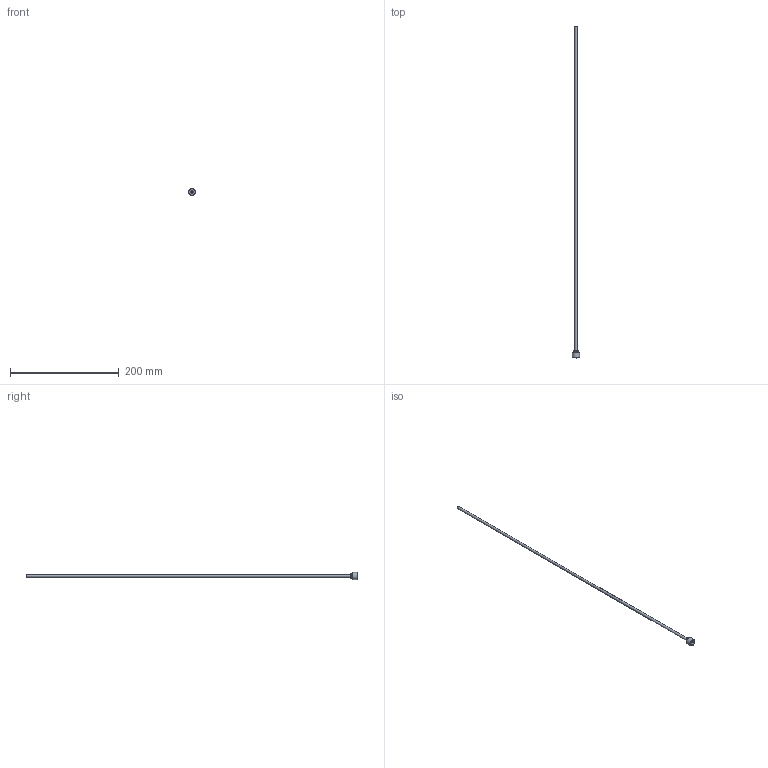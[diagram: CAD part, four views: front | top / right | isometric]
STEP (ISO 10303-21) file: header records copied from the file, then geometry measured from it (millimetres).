
FILE_DESCRIPTION(/* description */ (''),/* implementation_level */ '2;1');
FILE_NAME(/* name */ 'C:/Users/drich/Desktop/PT14-187-24 v1.step',/* time_stamp */ '2019-12-27T15:07:10-06:00',/* author */ (''),/* organization */ (''),/* preprocessor_version */ 'ST-DEVELOPER v18',/* originating_system */ 'Autodesk Translation Framework v8.12.0.6',/* authorisation */ '');
FILE_SCHEMA (('AUTOMOTIVE_DESIGN { 1 0 10303 214 3 1 1 }'));
Length unit declared in the file: inch
Products named in the file (1): PT14-187-24
Bounding box: 13.03 x 609.6 x 13.03 mm (x, y, z)
Volume: 3181.8 mm3; surface area: 17734.2 mm2
Topology: 1 solids, 1 shells, 19 faces, 48 edges, 34 vertices
Faces by surface type: plane 11, cylinder 4, torus 2, cone 2
Full cylindrical faces by diameter (mm): 4.242 x1, 4.724 x1, 8.712 x1, 13.032 x1
Entity records: 633 total; most frequent: DIRECTION 112, CARTESIAN_POINT 102, ORIENTED_EDGE 96, EDGE_CURVE 48, AXIS2_PLACEMENT_3D 44, VERTEX_POINT 34, CIRCLE 24, EDGE_LOOP 24
